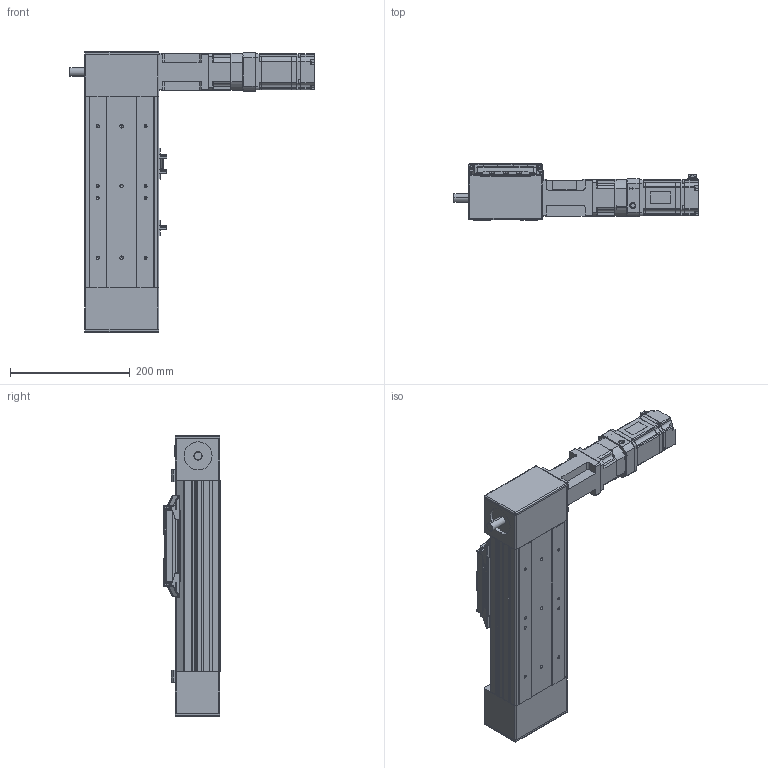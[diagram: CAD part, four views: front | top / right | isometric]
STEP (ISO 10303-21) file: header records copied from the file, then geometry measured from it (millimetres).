
FILE_DESCRIPTION (( 'STEP AP203' ), '1' );
FILE_NAME ('PCB120SDN-0000-ST100-40NR00-N-I3R.STEP', '2015-10-21T00:59:09', ( '' ), ( '' ), 'SwSTEP 2.0', 'SolidWorks 2012', '' );
FILE_SCHEMA (( 'CONFIG_CONTROL_DESIGN' ));
Products named in the file (14): sgmjv_04a_a21; PCB120SDN-0000-ST100-40NR00-N-I3R; jc32c; PCB120-Motor Bracket; PCB120-Carrier Assy; EE_SX672; PGX62-H-1_3; PCB120-Sensor Dog; PCB120-Carrier UPPER COVER; PCB120-Carrier END COVER; PCB120-Drive Pulley Block D; PCB120-Carrier; PCB120-BASE 100ST; PCB120-Idler Pulley Block
Assembly tree (16 placements, depth 3):
  PCB120SDN-0000-ST100-40NR00-N-I3R
    PCB120-BASE 100ST
    PCB120-Drive Pulley Block D
    PCB120-Idler Pulley Block
    PCB120-Carrier Assy
      PCB120-Carrier
      PCB120-Carrier UPPER COVER
      PCB120-Carrier END COVER  x2
      PCB120-Sensor Dog
    EE_SX672  x3
    PCB120-Motor Bracket
    PGX62-H-1_3
    sgmjv_04a_a21
    jc32c
Bounding box: 409.6 x 94.26 x 470 mm (x, y, z)
Volume: 4769828.6 mm3; surface area: 717905.6 mm2
Topology: 37 solids, 38 shells, 2984 faces, 7846 edges, 4997 vertices
Faces by surface type: plane 1662, cylinder 950, cone 214, bspline 130, sphere 28
Entity records: 85599 total; most frequent: CARTESIAN_POINT 20791, ORIENTED_EDGE 13316, DIRECTION 12968, EDGE_CURVE 6660, VECTOR 4390, LINE 4390, VERTEX_POINT 4303, AXIS2_PLACEMENT_3D 4289
